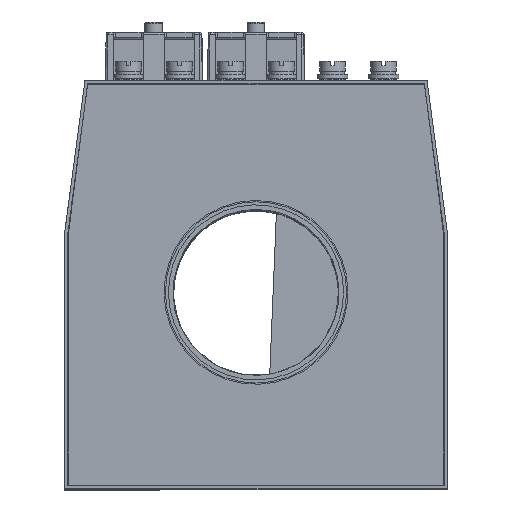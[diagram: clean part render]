
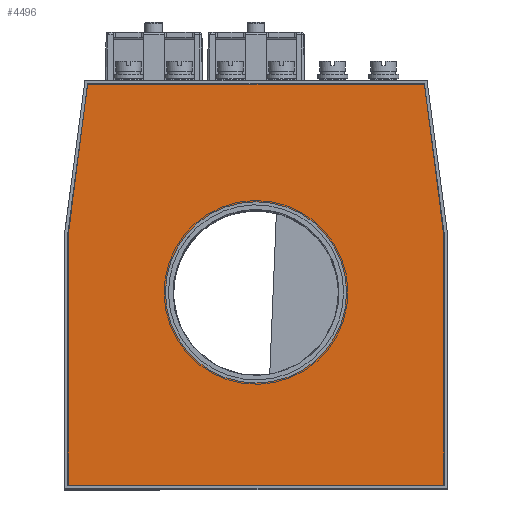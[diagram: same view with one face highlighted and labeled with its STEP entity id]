
A CAD part, top view. The second image highlights one B-rep face of the part: STEP entity #4496.
In plain terms, the highlighted planar face has unit normal (0, 0, 1).
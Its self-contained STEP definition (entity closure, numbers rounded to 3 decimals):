
#4496=ADVANCED_FACE('',(#7921,#7923),#7925,.T.);
#7921=FACE_BOUND('',#7922,.T.);
#7922=EDGE_LOOP('',(#9338,#9339,#9340,#9341,#9342,#9343));
#7923=FACE_BOUND('',#7924,.T.);
#7924=EDGE_LOOP('',(#9344));
#7925=PLANE('',#7926);
#7926=AXIS2_PLACEMENT_3D('',#7927,#7928,#7929);
#7927=CARTESIAN_POINT('',(0.,0.,5.));
#7928=DIRECTION('',(0.,0.,1.));
#7929=DIRECTION('',(1.,0.,0.));
#9338=ORIENTED_EDGE('',*,*,#10053,.T.);
#9339=ORIENTED_EDGE('',*,*,#10054,.T.);
#9340=ORIENTED_EDGE('',*,*,#10055,.T.);
#9341=ORIENTED_EDGE('',*,*,#10056,.T.);
#9342=ORIENTED_EDGE('',*,*,#10057,.T.);
#9343=ORIENTED_EDGE('',*,*,#10058,.T.);
#9344=ORIENTED_EDGE('',*,*,#10059,.T.);
#10053=EDGE_CURVE('',#11229,#11230,#11231,.T.);
#10054=EDGE_CURVE('',#11230,#11232,#11233,.T.);
#10055=EDGE_CURVE('',#11232,#11234,#11235,.T.);
#10056=EDGE_CURVE('',#11234,#11236,#11237,.T.);
#10057=EDGE_CURVE('',#11236,#11238,#11239,.T.);
#10058=EDGE_CURVE('',#11238,#11229,#11240,.T.);
#10059=EDGE_CURVE('',#11241,#11241,#11242,.F.);
#11229=VERTEX_POINT('',#14246);
#11230=VERTEX_POINT('',#14247);
#11231=LINE('',#14248,#14249);
#11232=VERTEX_POINT('',#14251);
#11233=LINE('',#14252,#14253);
#11234=VERTEX_POINT('',#14255);
#11235=LINE('',#14256,#14257);
#11236=VERTEX_POINT('',#14259);
#11237=LINE('',#14260,#14261);
#11238=VERTEX_POINT('',#14263);
#11239=LINE('',#14264,#14265);
#11240=LINE('',#14267,#14268);
#11241=VERTEX_POINT('',#14270);
#11242=CIRCLE('',#14271,35.5);
#14246=CARTESIAN_POINT('',(-73.5,19.815,5.));
#14247=CARTESIAN_POINT('',(-73.5,-78.5,5.));
#14248=CARTESIAN_POINT('',(-73.5,19.815,5.));
#14249=VECTOR('',#14250,1.);
#14250=DIRECTION('',(0.,-1.,0.));
#14251=CARTESIAN_POINT('',(73.5,-78.5,5.));
#14252=CARTESIAN_POINT('',(-73.5,-78.5,5.));
#14253=VECTOR('',#14254,1.);
#14254=DIRECTION('',(1.,0.,0.));
#14255=CARTESIAN_POINT('',(73.5,19.815,5.));
#14256=CARTESIAN_POINT('',(73.5,-78.5,5.));
#14257=VECTOR('',#14258,1.);
#14258=DIRECTION('',(0.,1.,0.));
#14259=CARTESIAN_POINT('',(66.,78.5,5.));
#14260=CARTESIAN_POINT('',(73.5,19.815,5.));
#14261=VECTOR('',#14262,1.);
#14262=DIRECTION('',(-0.127,0.992,0.));
#14263=CARTESIAN_POINT('',(-66.,78.5,5.));
#14264=CARTESIAN_POINT('',(66.,78.5,5.));
#14265=VECTOR('',#14266,1.);
#14266=DIRECTION('',(-1.,0.,0.));
#14267=CARTESIAN_POINT('',(-66.,78.5,5.));
#14268=VECTOR('',#14269,1.);
#14269=DIRECTION('',(-0.127,-0.992,0.));
#14270=CARTESIAN_POINT('',(35.5,-3.,5.));
#14271=AXIS2_PLACEMENT_3D('',#14272,#14273,#14274);
#14272=CARTESIAN_POINT('',(0.,-3.,5.));
#14273=DIRECTION('',(0.,0.,1.));
#14274=DIRECTION('',(1.,0.,0.));
